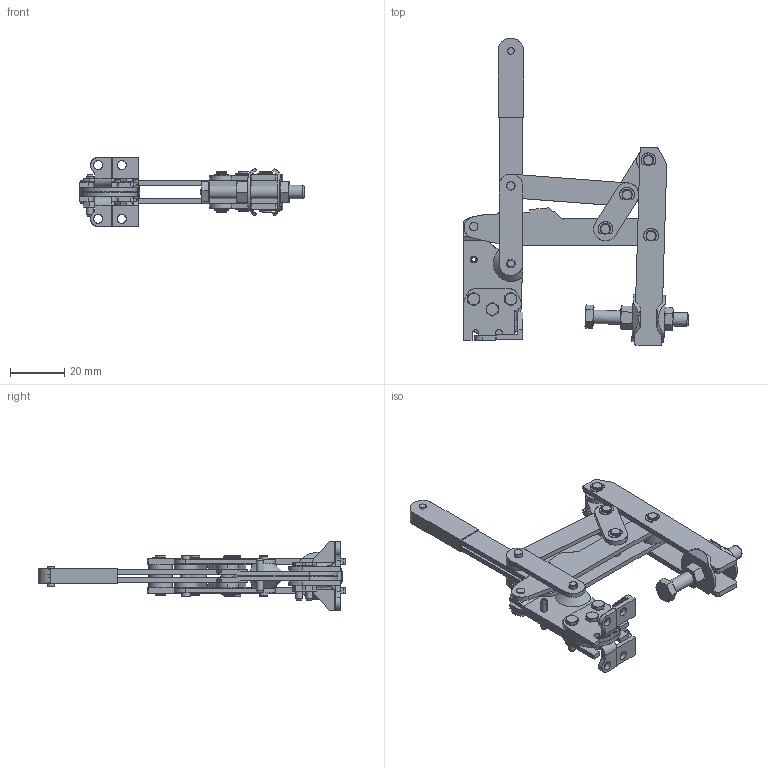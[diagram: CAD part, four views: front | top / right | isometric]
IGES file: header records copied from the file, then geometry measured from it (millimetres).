
Start section:  Autodesk DirectConnect version 7.0.27.0 ---- IGES version 5.3
Global section: file name: C:\Users\Nick\Desktop\DTSB-800\3D\DTSB-800.igs; native system: Autodesk DirectConnect 7.0.27.0; preprocessor: 7.0.27.0; author: Nick; organization: Unknown; date: 20150715.152954; units: centimetre
Bounding box: 83.22 x 113.89 x 25.48 mm (x, y, z)
Surface area: 29796.2 mm2 (no closed solid volume)
Topology: 0 solids, 0 shells, 865 faces, 5784 edges, 5733 vertices
Faces by surface type: bspline 865
